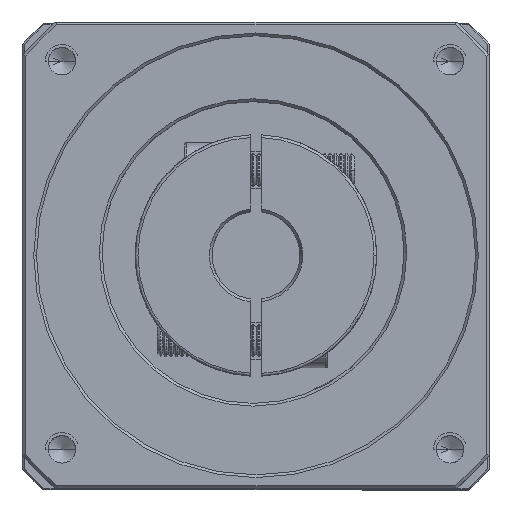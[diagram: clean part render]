
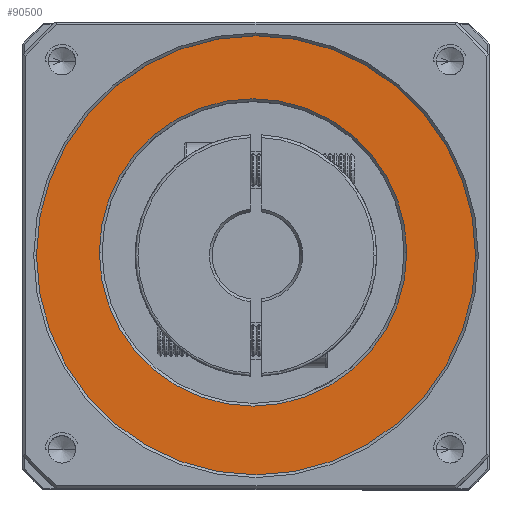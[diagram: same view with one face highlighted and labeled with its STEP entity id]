
A CAD part, top view. The second image highlights one B-rep face of the part: STEP entity #90500.
In plain terms, the highlighted planar face has unit normal (0, 0, 1).
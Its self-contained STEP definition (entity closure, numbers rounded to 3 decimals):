
#119 = CARTESIAN_POINT ( 'NONE',  ( -42.367, 30.419, -1.826 ) ) ;
#4781 = CARTESIAN_POINT ( 'NONE',  ( -42.367, 30.419, -1.826 ) ) ;
#10522 = AXIS2_PLACEMENT_3D ( 'NONE', #119, #80943, #98903 ) ;
#10691 = CARTESIAN_POINT ( 'NONE',  ( -41.825, 29.885, -1.826 ) ) ;
#17085 = FACE_BOUND ( 'NONE', #127286, .T. ) ;
#19436 = DIRECTION ( 'NONE',  ( 0., 0., 1. ) ) ;
#23868 = AXIS2_PLACEMENT_3D ( 'NONE', #38701, #19436, #58796 ) ;
#28189 = VERTEX_POINT ( 'NONE', #53629 ) ;
#30821 = DIRECTION ( 'NONE',  ( 1., 0., 0. ) ) ;
#34020 = AXIS2_PLACEMENT_3D ( 'NONE', #10691, #70570, #52137 ) ;
#34136 = ORIENTED_EDGE ( 'NONE', *, *, #77009, .T. ) ;
#37664 = EDGE_CURVE ( 'NONE', #98762, #28189, #84990, .T. ) ;
#38701 = CARTESIAN_POINT ( 'NONE',  ( -41.825, 29.885, -1.826 ) ) ;
#39047 = CARTESIAN_POINT ( 'NONE',  ( -70.367, 30.419, -1.826 ) ) ;
#39062 = PLANE ( 'NONE',  #34020 ) ;
#43401 = VERTEX_POINT ( 'NONE', #39047 ) ;
#43649 = FACE_OUTER_BOUND ( 'NONE', #95776, .T. ) ;
#45008 = CIRCLE ( 'NONE', #46433, 28. ) ;
#45768 = CARTESIAN_POINT ( 'NONE',  ( -1.825, 29.885, -1.826 ) ) ;
#46433 = AXIS2_PLACEMENT_3D ( 'NONE', #4781, #64688, #114994 ) ;
#48700 = ORIENTED_EDGE ( 'NONE', *, *, #37664, .T. ) ;
#51381 = DIRECTION ( 'NONE',  ( 0., 0., 1. ) ) ;
#52137 = DIRECTION ( 'NONE',  ( 1., 0., 0. ) ) ;
#53629 = CARTESIAN_POINT ( 'NONE',  ( -81.825, 29.885, -1.826 ) ) ;
#57136 = CIRCLE ( 'NONE', #23868, 40. ) ;
#58796 = DIRECTION ( 'NONE',  ( 1., 0., 0. ) ) ;
#59909 = ORIENTED_EDGE ( 'NONE', *, *, #95873, .T. ) ;
#64688 = DIRECTION ( 'NONE',  ( 0., 0., -1. ) ) ;
#65787 = AXIS2_PLACEMENT_3D ( 'NONE', #79821, #51381, #30821 ) ;
#70570 = DIRECTION ( 'NONE',  ( 0., 0., 1. ) ) ;
#71778 = CARTESIAN_POINT ( 'NONE',  ( -14.367, 30.419, -1.826 ) ) ;
#77009 = EDGE_CURVE ( 'NONE', #43401, #81157, #45008, .T. ) ;
#79821 = CARTESIAN_POINT ( 'NONE',  ( -41.825, 29.885, -1.826 ) ) ;
#80943 = DIRECTION ( 'NONE',  ( 0., 0., -1. ) ) ;
#81033 = ORIENTED_EDGE ( 'NONE', *, *, #96037, .T. ) ;
#81157 = VERTEX_POINT ( 'NONE', #71778 ) ;
#84990 = CIRCLE ( 'NONE', #65787, 40. ) ;
#90500 = ADVANCED_FACE ( 'NONE', ( #43649, #17085 ), #39062, .T. ) ;
#95776 = EDGE_LOOP ( 'NONE', ( #48700, #59909 ) ) ;
#95873 = EDGE_CURVE ( 'NONE', #28189, #98762, #57136, .T. ) ;
#96037 = EDGE_CURVE ( 'NONE', #81157, #43401, #104013, .T. ) ;
#98762 = VERTEX_POINT ( 'NONE', #45768 ) ;
#98903 = DIRECTION ( 'NONE',  ( 1., 0., 0. ) ) ;
#104013 = CIRCLE ( 'NONE', #10522, 28. ) ;
#114994 = DIRECTION ( 'NONE',  ( 1., 0., 0. ) ) ;
#127286 = EDGE_LOOP ( 'NONE', ( #81033, #34136 ) ) ;
